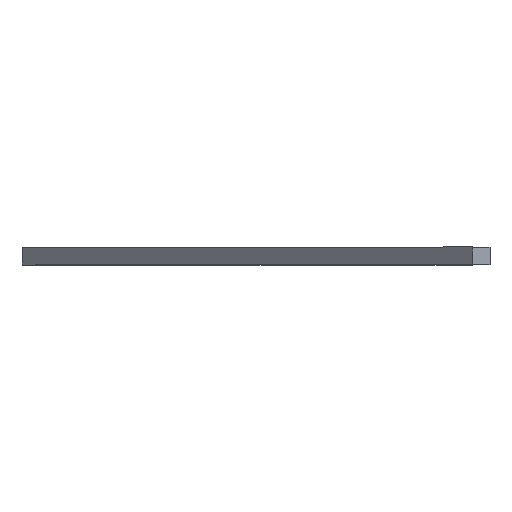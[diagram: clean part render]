
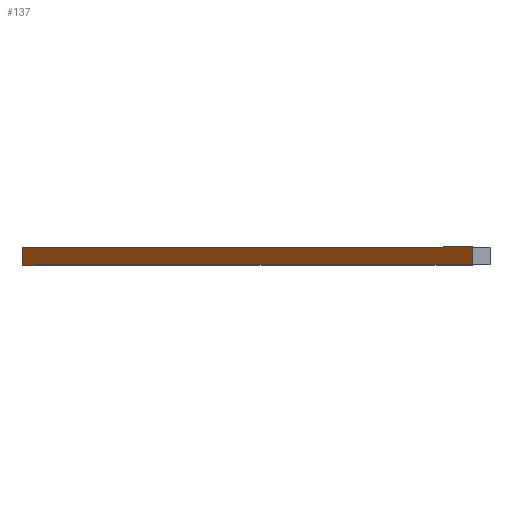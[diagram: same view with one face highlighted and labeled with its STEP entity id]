
A CAD part, top view. The second image highlights one B-rep face of the part: STEP entity #137.
In plain terms, the highlighted planar face has unit normal (-0.707, 0, 0.707).
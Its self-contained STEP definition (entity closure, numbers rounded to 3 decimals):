
#21 = EDGE_CURVE('',#22,#24,#26,.T.);
#22 = VERTEX_POINT('',#23);
#23 = CARTESIAN_POINT('',(12.728,50.,18.));
#24 = VERTEX_POINT('',#25);
#25 = CARTESIAN_POINT('',(12.728,68.,18.));
#26 = SURFACE_CURVE('',#27,(#31,#43),.PCURVE_S1.);
#27 = LINE('',#28,#29);
#28 = CARTESIAN_POINT('',(12.728,50.,18.));
#29 = VECTOR('',#30,1.);
#30 = DIRECTION('',(0.,1.,0.));
#31 = PCURVE('',#32,#37);
#32 = PLANE('',#33);
#33 = AXIS2_PLACEMENT_3D('',#34,#35,#36);
#34 = CARTESIAN_POINT('',(12.728,50.,18.));
#35 = DIRECTION('',(0.,0.,-1.));
#36 = DIRECTION('',(1.,0.,0.));
#37 = DEFINITIONAL_REPRESENTATION('',(#38),#42);
#38 = LINE('',#39,#40);
#39 = CARTESIAN_POINT('',(0.,0.));
#40 = VECTOR('',#41,1.);
#41 = DIRECTION('',(0.,-1.));
#42 = ( GEOMETRIC_REPRESENTATION_CONTEXT(2) 
PARAMETRIC_REPRESENTATION_CONTEXT() REPRESENTATION_CONTEXT('2D SPACE',''
  ) );
#43 = PCURVE('',#44,#49);
#44 = PLANE('',#45);
#45 = AXIS2_PLACEMENT_3D('',#46,#47,#48);
#46 = CARTESIAN_POINT('',(482.,50.,487.272));
#47 = DIRECTION('',(-0.707,0.,0.707));
#48 = DIRECTION('',(-0.707,0.,-0.707));
#49 = DEFINITIONAL_REPRESENTATION('',(#50),#54);
#50 = LINE('',#51,#52);
#51 = CARTESIAN_POINT('',(663.651,0.));
#52 = VECTOR('',#53,1.);
#53 = DIRECTION('',(0.,-1.));
#54 = ( GEOMETRIC_REPRESENTATION_CONTEXT(2) 
PARAMETRIC_REPRESENTATION_CONTEXT() REPRESENTATION_CONTEXT('2D SPACE',''
  ) );
#72 = PLANE('',#73);
#73 = AXIS2_PLACEMENT_3D('',#74,#75,#76);
#74 = CARTESIAN_POINT('',(324.285,68.,175.715));
#75 = DIRECTION('',(-0.,-1.,-0.));
#76 = DIRECTION('',(0.,0.,-1.));
#126 = PLANE('',#127);
#127 = AXIS2_PLACEMENT_3D('',#128,#129,#130);
#128 = CARTESIAN_POINT('',(324.285,50.,175.715));
#129 = DIRECTION('',(-0.,-1.,-0.));
#130 = DIRECTION('',(0.,0.,-1.));
#137 = ADVANCED_FACE('',(#138),#44,.T.);
#138 = FACE_BOUND('',#139,.T.);
#139 = EDGE_LOOP('',(#140,#170,#191,#192));
#140 = ORIENTED_EDGE('',*,*,#141,.T.);
#141 = EDGE_CURVE('',#142,#144,#146,.T.);
#142 = VERTEX_POINT('',#143);
#143 = CARTESIAN_POINT('',(482.,50.,487.272));
#144 = VERTEX_POINT('',#145);
#145 = CARTESIAN_POINT('',(482.,68.,487.272));
#146 = SURFACE_CURVE('',#147,(#151,#158),.PCURVE_S1.);
#147 = LINE('',#148,#149);
#148 = CARTESIAN_POINT('',(482.,50.,487.272));
#149 = VECTOR('',#150,1.);
#150 = DIRECTION('',(0.,1.,0.));
#151 = PCURVE('',#44,#152);
#152 = DEFINITIONAL_REPRESENTATION('',(#153),#157);
#153 = LINE('',#154,#155);
#154 = CARTESIAN_POINT('',(0.,0.));
#155 = VECTOR('',#156,1.);
#156 = DIRECTION('',(0.,-1.));
#157 = ( GEOMETRIC_REPRESENTATION_CONTEXT(2) 
PARAMETRIC_REPRESENTATION_CONTEXT() REPRESENTATION_CONTEXT('2D SPACE',''
  ) );
#158 = PCURVE('',#159,#164);
#159 = PLANE('',#160);
#160 = AXIS2_PLACEMENT_3D('',#161,#162,#163);
#161 = CARTESIAN_POINT('',(482.,50.,350.));
#162 = DIRECTION('',(1.,0.,0.));
#163 = DIRECTION('',(0.,0.,1.));
#164 = DEFINITIONAL_REPRESENTATION('',(#165),#169);
#165 = LINE('',#166,#167);
#166 = CARTESIAN_POINT('',(137.272,0.));
#167 = VECTOR('',#168,1.);
#168 = DIRECTION('',(0.,-1.));
#169 = ( GEOMETRIC_REPRESENTATION_CONTEXT(2) 
PARAMETRIC_REPRESENTATION_CONTEXT() REPRESENTATION_CONTEXT('2D SPACE',''
  ) );
#170 = ORIENTED_EDGE('',*,*,#171,.T.);
#171 = EDGE_CURVE('',#144,#24,#172,.T.);
#172 = SURFACE_CURVE('',#173,(#177,#184),.PCURVE_S1.);
#173 = LINE('',#174,#175);
#174 = CARTESIAN_POINT('',(482.,68.,487.272));
#175 = VECTOR('',#176,1.);
#176 = DIRECTION('',(-0.707,0.,-0.707));
#177 = PCURVE('',#44,#178);
#178 = DEFINITIONAL_REPRESENTATION('',(#179),#183);
#179 = LINE('',#180,#181);
#180 = CARTESIAN_POINT('',(0.,-18.));
#181 = VECTOR('',#182,1.);
#182 = DIRECTION('',(1.,0.));
#183 = ( GEOMETRIC_REPRESENTATION_CONTEXT(2) 
PARAMETRIC_REPRESENTATION_CONTEXT() REPRESENTATION_CONTEXT('2D SPACE',''
  ) );
#184 = PCURVE('',#72,#185);
#185 = DEFINITIONAL_REPRESENTATION('',(#186),#190);
#186 = LINE('',#187,#188);
#187 = CARTESIAN_POINT('',(-311.557,157.715));
#188 = VECTOR('',#189,1.);
#189 = DIRECTION('',(0.707,-0.707));
#190 = ( GEOMETRIC_REPRESENTATION_CONTEXT(2) 
PARAMETRIC_REPRESENTATION_CONTEXT() REPRESENTATION_CONTEXT('2D SPACE',''
  ) );
#191 = ORIENTED_EDGE('',*,*,#21,.F.);
#192 = ORIENTED_EDGE('',*,*,#193,.F.);
#193 = EDGE_CURVE('',#142,#22,#194,.T.);
#194 = SURFACE_CURVE('',#195,(#199,#206),.PCURVE_S1.);
#195 = LINE('',#196,#197);
#196 = CARTESIAN_POINT('',(482.,50.,487.272));
#197 = VECTOR('',#198,1.);
#198 = DIRECTION('',(-0.707,0.,-0.707));
#199 = PCURVE('',#44,#200);
#200 = DEFINITIONAL_REPRESENTATION('',(#201),#205);
#201 = LINE('',#202,#203);
#202 = CARTESIAN_POINT('',(0.,0.));
#203 = VECTOR('',#204,1.);
#204 = DIRECTION('',(1.,0.));
#205 = ( GEOMETRIC_REPRESENTATION_CONTEXT(2) 
PARAMETRIC_REPRESENTATION_CONTEXT() REPRESENTATION_CONTEXT('2D SPACE',''
  ) );
#206 = PCURVE('',#126,#207);
#207 = DEFINITIONAL_REPRESENTATION('',(#208),#212);
#208 = LINE('',#209,#210);
#209 = CARTESIAN_POINT('',(-311.557,157.715));
#210 = VECTOR('',#211,1.);
#211 = DIRECTION('',(0.707,-0.707));
#212 = ( GEOMETRIC_REPRESENTATION_CONTEXT(2) 
PARAMETRIC_REPRESENTATION_CONTEXT() REPRESENTATION_CONTEXT('2D SPACE',''
  ) );
